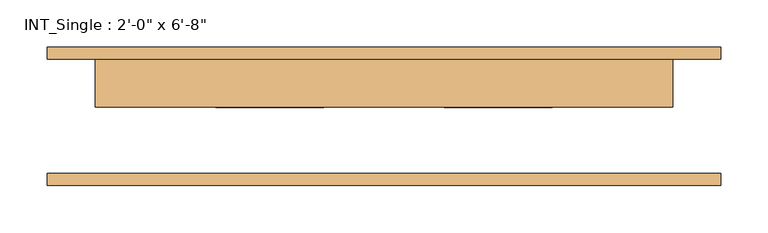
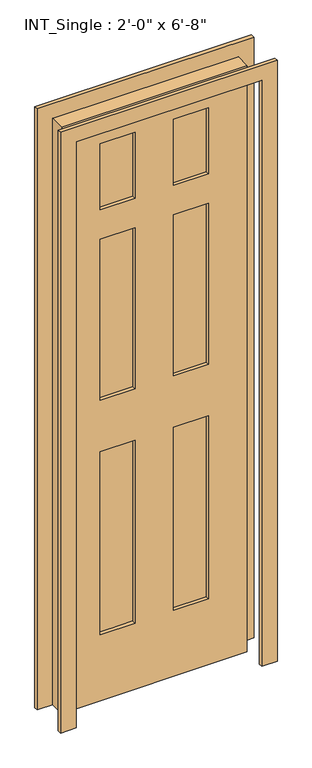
"""IFC4 building model written with IfcOpenShell, lengths in millimetres: door geometry."""

from ifc_helpers import new_model, si_unit, frame, origin, place, context, project, spatial, polyline, outline, extrude, source, transform, mapped, element, save


def door_9762c4b2(model_context):
    return source(origin(), model_context, "Body", "SweptSolid", [
        extrude(outline(polyline([(0.0, -355.6), (0.0, -304.8), (2032.0, -304.8), (2032.0, 304.8), (0.0, 304.8), (0.0, 355.6), (2082.8, 355.6), (2082.8, -355.6), (0.0, -355.6)])), frame((0.0, -73.025, 0.0), z_axis=(0.0, 1.0, 0.0), x_axis=(0.0, 0.0, 1.0)), (0.0, 0.0, 1.0), 12.7),
        extrude(outline(polyline([(0.0, 355.6), (2082.8, 355.6), (2082.8, -355.6), (0.0, -355.6), (0.0, -304.8), (2032.0, -304.8), (2032.0, 304.8), (0.0, 304.8), (0.0, 355.6)])), frame((0.0, 60.325, 0.0), z_axis=(0.0, 1.0, 0.0), x_axis=(0.0, 0.0, 1.0)), (0.0, 0.0, 1.0), 12.7),
        extrude(outline(polyline([(-63.5, 22.225), (-177.8, 22.225), (-177.8, 47.625), (-63.5, 47.625), (-63.5, 22.225)])), frame((0.0, 0.0, 1701.8), z_axis=(0.0, 0.0, 1.0), x_axis=(1.0, 0.0, 0.0)), (0.0, 0.0, 1.0), 228.6),
        extrude(outline(polyline([(177.8, 22.225), (63.5, 22.225), (63.5, 47.625), (177.8, 47.625), (177.8, 22.225)])), frame((0.0, 0.0, 1701.8), z_axis=(0.0, 0.0, 1.0), x_axis=(1.0, 0.0, 0.0)), (0.0, 0.0, 1.0), 228.6),
        extrude(outline(polyline([(-63.5, 22.225), (-177.8, 22.225), (-177.8, 47.625), (-63.5, 47.625), (-63.5, 22.225)])), frame((0.0, 0.0, 1041.4), z_axis=(0.0, 0.0, 1.0), x_axis=(1.0, 0.0, 0.0)), (0.0, 0.0, 1.0), 558.8),
        extrude(outline(polyline([(177.8, 22.225), (63.5, 22.225), (63.5, 47.625), (177.8, 47.625), (177.8, 22.225)])), frame((0.0, 0.0, 1041.4), z_axis=(0.0, 0.0, 1.0), x_axis=(1.0, 0.0, 0.0)), (0.0, 0.0, 1.0), 558.8),
        extrude(outline(polyline([(-63.5, 22.225), (-177.8, 22.225), (-177.8, 47.625), (-63.5, 47.625), (-63.5, 22.225)])), frame((0.0, 0.0, 228.6), z_axis=(0.0, 0.0, 1.0), x_axis=(1.0, 0.0, 0.0)), (0.0, 0.0, 1.0), 635.0),
        extrude(outline(polyline([(177.8, 22.225), (63.5, 22.225), (63.5, 47.625), (177.8, 47.625), (177.8, 22.225)])), frame((0.0, 0.0, 228.6), z_axis=(0.0, 0.0, 1.0), x_axis=(1.0, 0.0, 0.0)), (0.0, 0.0, 1.0), 635.0),
        extrude(outline(polyline([(2032.0, 304.8), (2032.0, -304.8), (0.0, -304.8), (0.0, 304.8), (2032.0, 304.8)]), holes=[polyline([(1930.4, -63.5), (1701.8, -63.5), (1701.8, -177.8), (1930.4, -177.8), (1930.4, -63.5)]), polyline([(1930.4, 177.8), (1701.8, 177.8), (1701.8, 63.5), (1930.4, 63.5), (1930.4, 177.8)]), polyline([(1600.2, -63.5), (1041.4, -63.5), (1041.4, -177.8), (1600.2, -177.8), (1600.2, -63.5)]), polyline([(1600.2, 177.8), (1041.4, 177.8), (1041.4, 63.5), (1600.2, 63.5), (1600.2, 177.8)]), polyline([(863.6, -63.5), (228.6, -63.5), (228.6, -177.8), (863.6, -177.8), (863.6, -63.5)]), polyline([(863.6, 177.8), (228.6, 177.8), (228.6, 63.5), (863.6, 63.5), (863.6, 177.8)])]), frame((0.0, 9.525, 0.0), z_axis=(0.0, 1.0, 0.0), x_axis=(0.0, 0.0, 1.0)), (0.0, 0.0, 1.0), 50.8),
    ])


if __name__ == "__main__":
    model = new_model("IFC4")
    model_context = context("Model", 3, world=origin())
    ifc_project = project(units=[si_unit("LENGTHUNIT", "METRE", prefix="MILLI")], contexts=[model_context])
    site = spatial("IfcSite", under=ifc_project)
    building = spatial("IfcBuilding", under=site)
    placement = place(None, origin())
    door_shape = door_9762c4b2(model_context)
    element("IfcDoor", 1, ObjectType="INT_Single : 2'-0\" x 6'-8\"", at=placement, inside=building, context=model_context, shape_type="MappedRepresentation", body=[
        mapped(door_shape, transform((0.0, 0.0, 0.0), x_axis=(1.0, 0.0, 0.0), y_axis=(0.0, 1.0, 0.0), z_axis=(0.0, 0.0, 1.0))),
    ])
    save(model, "model.ifc")
